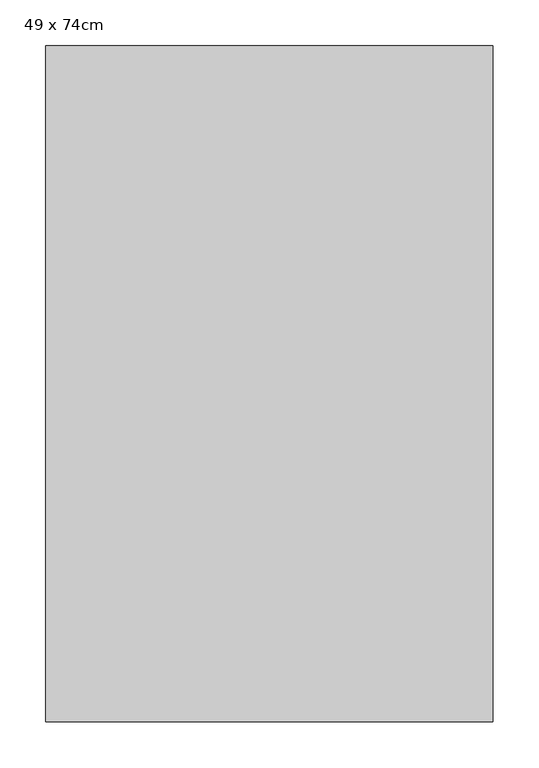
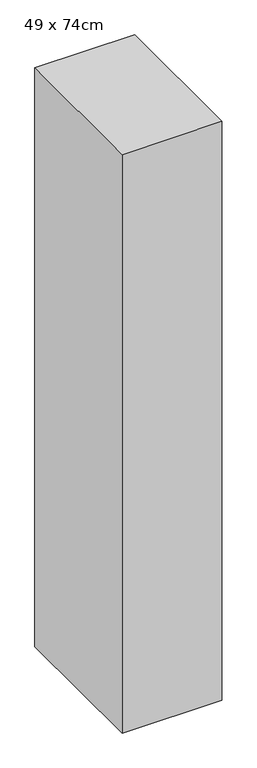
"""IFC4 building model written with IfcOpenShell, lengths in millimetres: column geometry, 混凝土柱-矩形 : 49 x 74cm."""

from ifc_helpers import new_model, si_unit, frame, origin, place, context, project, spatial, polyline, outline, extrude, source, transform, mapped, element, save


def column_49_x_74cm_deb33982(model_context):
    return source(origin(), model_context, "Body", "SweptSolid", [
        extrude(outline(polyline([(245.0, 370.0), (245.0, -370.0), (-245.0, -370.0), (-245.0, 370.0), (245.0, 370.0)])), frame((0.0, 0.0, 300.0), z_axis=(0.0, 0.0, 1.0), x_axis=(1.0, 0.0, 0.0)), (0.0, 0.0, 1.0), 3000.0),
    ])


if __name__ == "__main__":
    model = new_model("IFC4")
    model_context = context("Model", 3, world=origin())
    ifc_project = project(units=[si_unit("LENGTHUNIT", "METRE", prefix="MILLI")], contexts=[model_context])
    site = spatial("IfcSite", under=ifc_project)
    building = spatial("IfcBuilding", under=site)
    placement = place(None, origin())
    column_49_x_74cm_shape = column_49_x_74cm_deb33982(model_context)
    element("IfcColumn", 1, ObjectType="混凝土柱-矩形 : 49 x 74cm", at=placement, inside=building, context=model_context, shape_type="MappedRepresentation", body=[
        mapped(column_49_x_74cm_shape, transform((0.0, 0.0, 0.0), x_axis=(1.0, 0.0, 0.0), y_axis=(0.0, 1.0, 0.0), z_axis=(0.0, 0.0, 1.0))),
    ])
    save(model, "model.ifc")
